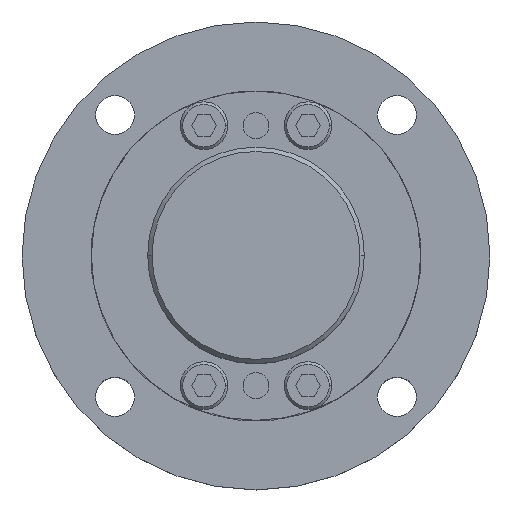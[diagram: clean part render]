
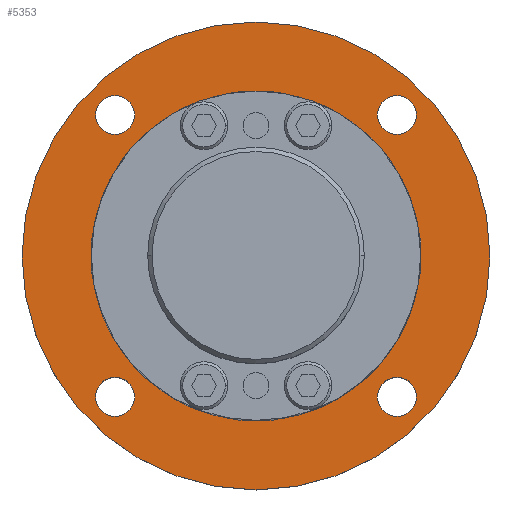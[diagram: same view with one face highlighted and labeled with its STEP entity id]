
A CAD part, top view. The second image highlights one B-rep face of the part: STEP entity #5353.
In plain terms, the highlighted planar face has unit normal (0, 0, 1).
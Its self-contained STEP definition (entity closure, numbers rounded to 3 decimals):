
#1958=CARTESIAN_POINT('',(0.,19.0,-8.0));
#1959=VERTEX_POINT('',#1958);
#2071=CARTESIAN_POINT('',(0.,-19.0,-8.0));
#2072=VERTEX_POINT('',#2071);
#2079=CARTESIAN_POINT('',(0.0,0.0,-8.0));
#2080=DIRECTION('',(0.0,0.0,-1.0));
#2081=DIRECTION('',(0.0,-1.0,0.0));
#2082=AXIS2_PLACEMENT_3D('',#2079,#2080,#2081);
#2083=CIRCLE('',#2082,19.0);
#2084=EDGE_CURVE('',#1959,#2072,#2083,.T.);
#2727=CARTESIAN_POINT('',(0.,-27.0,-8.0));
#2728=VERTEX_POINT('',#2727);
#2744=CARTESIAN_POINT('',(0.,27.0,-8.0));
#2745=VERTEX_POINT('',#2744);
#2752=CARTESIAN_POINT('',(0.0,0.0,-8.0));
#2753=DIRECTION('',(0.0,0.0,-1.0));
#2754=DIRECTION('',(0.0,-1.0,0.0));
#2755=AXIS2_PLACEMENT_3D('',#2752,#2753,#2754);
#2756=CIRCLE('',#2755,27.0);
#2757=EDGE_CURVE('',#2745,#2728,#2756,.T.);
#3371=CARTESIAN_POINT('',(-16.263,-18.513,-8.0));
#3372=VERTEX_POINT('',#3371);
#3381=CARTESIAN_POINT('',(-16.263,-14.013,-8.0));
#3382=VERTEX_POINT('',#3381);
#3383=CARTESIAN_POINT('',(-16.263,-16.263,-8.0));
#3384=DIRECTION('',(0.0,0.0,-1.0));
#3385=DIRECTION('',(0.0,-1.0,0.0));
#3386=AXIS2_PLACEMENT_3D('',#3383,#3384,#3385);
#3387=CIRCLE('',#3386,2.25);
#3388=EDGE_CURVE('',#3382,#3372,#3387,.T.);
#3413=CARTESIAN_POINT('',(-16.263,14.013,-8.0));
#3414=VERTEX_POINT('',#3413);
#3423=CARTESIAN_POINT('',(-16.263,18.513,-8.0));
#3424=VERTEX_POINT('',#3423);
#3425=CARTESIAN_POINT('',(-16.263,16.263,-8.0));
#3426=DIRECTION('',(0.0,0.0,-1.0));
#3427=DIRECTION('',(0.0,-1.0,0.0));
#3428=AXIS2_PLACEMENT_3D('',#3425,#3426,#3427);
#3429=CIRCLE('',#3428,2.25);
#3430=EDGE_CURVE('',#3424,#3414,#3429,.T.);
#3455=CARTESIAN_POINT('',(16.263,-18.513,-8.0));
#3456=VERTEX_POINT('',#3455);
#3465=CARTESIAN_POINT('',(16.263,-14.013,-8.0));
#3466=VERTEX_POINT('',#3465);
#3467=CARTESIAN_POINT('',(16.263,-16.263,-8.0));
#3468=DIRECTION('',(0.0,0.0,-1.0));
#3469=DIRECTION('',(0.0,-1.0,0.0));
#3470=AXIS2_PLACEMENT_3D('',#3467,#3468,#3469);
#3471=CIRCLE('',#3470,2.25);
#3472=EDGE_CURVE('',#3466,#3456,#3471,.T.);
#3497=CARTESIAN_POINT('',(16.263,14.013,-8.0));
#3498=VERTEX_POINT('',#3497);
#3507=CARTESIAN_POINT('',(16.263,18.513,-8.0));
#3508=VERTEX_POINT('',#3507);
#3509=CARTESIAN_POINT('',(16.263,16.263,-8.0));
#3510=DIRECTION('',(0.0,0.0,-1.0));
#3511=DIRECTION('',(0.0,-1.0,0.0));
#3512=AXIS2_PLACEMENT_3D('',#3509,#3510,#3511);
#3513=CIRCLE('',#3512,2.25);
#3514=EDGE_CURVE('',#3508,#3498,#3513,.T.);
#3956=CARTESIAN_POINT('',(16.263,16.263,-8.0));
#3957=DIRECTION('',(0.0,0.0,-1.0));
#3958=DIRECTION('',(0.0,-1.0,0.0));
#3959=AXIS2_PLACEMENT_3D('',#3956,#3957,#3958);
#3960=CIRCLE('',#3959,2.25);
#3961=EDGE_CURVE('',#3498,#3508,#3960,.T.);
#3980=CARTESIAN_POINT('',(16.263,-16.263,-8.0));
#3981=DIRECTION('',(0.0,0.0,-1.0));
#3982=DIRECTION('',(0.0,-1.0,0.0));
#3983=AXIS2_PLACEMENT_3D('',#3980,#3981,#3982);
#3984=CIRCLE('',#3983,2.25);
#3985=EDGE_CURVE('',#3456,#3466,#3984,.T.);
#4004=CARTESIAN_POINT('',(-16.263,16.263,-8.0));
#4005=DIRECTION('',(0.0,0.0,-1.0));
#4006=DIRECTION('',(0.0,-1.0,0.0));
#4007=AXIS2_PLACEMENT_3D('',#4004,#4005,#4006);
#4008=CIRCLE('',#4007,2.25);
#4009=EDGE_CURVE('',#3414,#3424,#4008,.T.);
#4028=CARTESIAN_POINT('',(-16.263,-16.263,-8.0));
#4029=DIRECTION('',(0.0,0.0,-1.0));
#4030=DIRECTION('',(0.0,-1.0,0.0));
#4031=AXIS2_PLACEMENT_3D('',#4028,#4029,#4030);
#4032=CIRCLE('',#4031,2.25);
#4033=EDGE_CURVE('',#3372,#3382,#4032,.T.);
#5306=CARTESIAN_POINT('',(0.0,0.0,-8.0));
#5307=DIRECTION('',(0.0,0.0,-1.0));
#5308=DIRECTION('',(0.0,-1.0,0.0));
#5309=AXIS2_PLACEMENT_3D('',#5306,#5307,#5308);
#5310=CIRCLE('',#5309,27.0);
#5311=EDGE_CURVE('',#2728,#2745,#5310,.T.);
#5318=CARTESIAN_POINT('',(0.,-2.455,-8.0));
#5319=DIRECTION('',(0.0,0.0,1.0));
#5320=DIRECTION('',(0.0,-1.0,0.0));
#5321=AXIS2_PLACEMENT_3D('',#5318,#5319,#5320);
#5322=PLANE('',#5321);
#5323=ORIENTED_EDGE('',*,*,#5311,.F.);
#5324=ORIENTED_EDGE('',*,*,#2757,.F.);
#5325=EDGE_LOOP('',(#5323,#5324));
#5326=FACE_OUTER_BOUND('',#5325,.T.);
#5327=ORIENTED_EDGE('',*,*,#3514,.T.);
#5328=ORIENTED_EDGE('',*,*,#3961,.T.);
#5329=EDGE_LOOP('',(#5327,#5328));
#5330=FACE_BOUND('',#5329,.T.);
#5331=ORIENTED_EDGE('',*,*,#3472,.T.);
#5332=ORIENTED_EDGE('',*,*,#3985,.T.);
#5333=EDGE_LOOP('',(#5331,#5332));
#5334=FACE_BOUND('',#5333,.T.);
#5335=ORIENTED_EDGE('',*,*,#3430,.T.);
#5336=ORIENTED_EDGE('',*,*,#4009,.T.);
#5337=EDGE_LOOP('',(#5335,#5336));
#5338=FACE_BOUND('',#5337,.T.);
#5339=ORIENTED_EDGE('',*,*,#3388,.T.);
#5340=ORIENTED_EDGE('',*,*,#4033,.T.);
#5341=EDGE_LOOP('',(#5339,#5340));
#5342=FACE_BOUND('',#5341,.T.);
#5343=ORIENTED_EDGE('',*,*,#2084,.T.);
#5344=CARTESIAN_POINT('',(0.0,0.0,-8.0));
#5345=DIRECTION('',(0.0,0.0,-1.0));
#5346=DIRECTION('',(0.0,-1.0,0.0));
#5347=AXIS2_PLACEMENT_3D('',#5344,#5345,#5346);
#5348=CIRCLE('',#5347,19.0);
#5349=EDGE_CURVE('',#2072,#1959,#5348,.T.);
#5350=ORIENTED_EDGE('',*,*,#5349,.T.);
#5351=EDGE_LOOP('',(#5343,#5350));
#5352=FACE_BOUND('',#5351,.T.);
#5353=ADVANCED_FACE('',(#5326,#5330,#5334,#5338,#5342,#5352),#5322,.T.);
